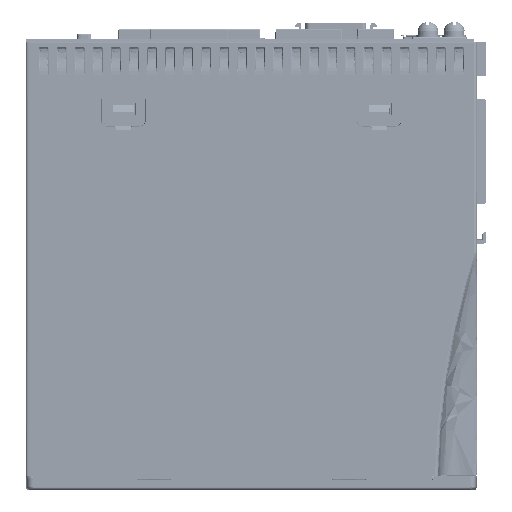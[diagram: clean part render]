
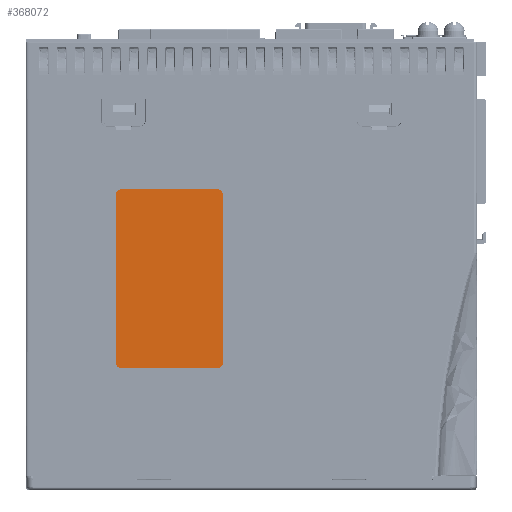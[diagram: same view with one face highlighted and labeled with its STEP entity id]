
A CAD part, front view. The second image highlights one B-rep face of the part: STEP entity #368072.
In plain terms, the highlighted planar face has unit normal (0, -1, 0).
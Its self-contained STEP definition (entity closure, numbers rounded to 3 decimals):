
#356050=CARTESIAN_POINT('',(-11.4,-21.2,-32.6));
#356051=DIRECTION('',(0.,-1.,0.));
#356052=DIRECTION('',(0.,0.,-1.));
#356053=AXIS2_PLACEMENT_3D('',#356050,#356051,#356052);
#356058=DIRECTION('',(1.,0.,0.));
#356059=VECTOR('',#356058,31.6);
#356060=CARTESIAN_POINT('',(-43.,-21.2,-34.6));
#356061=LINE('',#356060,#356059);
#356065=CARTESIAN_POINT('',(-43.,-21.2,-32.6));
#356066=DIRECTION('',(0.,-1.,0.));
#356067=DIRECTION('',(-1.,0.,0.));
#356068=AXIS2_PLACEMENT_3D('',#356065,#356066,#356067);
#356073=DIRECTION('',(0.,0.,-1.));
#356074=VECTOR('',#356073,55.6);
#356075=CARTESIAN_POINT('',(-45.,-21.2,23.));
#356076=LINE('',#356075,#356074);
#356080=CARTESIAN_POINT('',(-43.,-21.2,23.));
#356081=DIRECTION('',(0.,-1.,0.));
#356082=DIRECTION('',(0.,0.,1.));
#356083=AXIS2_PLACEMENT_3D('',#356080,#356081,#356082);
#356088=DIRECTION('',(-1.,0.,0.));
#356089=VECTOR('',#356088,31.6);
#356090=CARTESIAN_POINT('',(-11.4,-21.2,25.));
#356091=LINE('',#356090,#356089);
#356095=CARTESIAN_POINT('',(-11.4,-21.2,23.));
#356096=DIRECTION('',(0.,-1.,0.));
#356097=DIRECTION('',(1.,0.,0.));
#356098=AXIS2_PLACEMENT_3D('',#356095,#356096,#356097);
#356103=DIRECTION('',(0.,0.,-1.));
#356104=VECTOR('',#356103,55.6);
#356105=CARTESIAN_POINT('',(-9.4,-21.2,23.));
#356106=LINE('',#356105,#356104);
#356422=CARTESIAN_POINT('',(-45.,-21.2,-32.6));
#356423=CARTESIAN_POINT('',(-43.,-21.2,-34.6));
#356424=VERTEX_POINT('',#356422);
#356425=VERTEX_POINT('',#356423);
#356430=CARTESIAN_POINT('',(-43.,-21.2,25.));
#356431=CARTESIAN_POINT('',(-45.,-21.2,23.));
#356432=VERTEX_POINT('',#356430);
#356433=VERTEX_POINT('',#356431);
#356799=CARTESIAN_POINT('',(-11.4,-21.2,-34.6));
#356801=VERTEX_POINT('',#356799);
#356803=CARTESIAN_POINT('',(-9.4,-21.2,-32.6));
#356804=VERTEX_POINT('',#356803);
#356807=CARTESIAN_POINT('',(-9.4,-21.2,23.));
#356808=CARTESIAN_POINT('',(-11.4,-21.2,25.));
#356809=VERTEX_POINT('',#356807);
#356810=VERTEX_POINT('',#356808);
#368053=CARTESIAN_POINT('',(0.,-21.2,0.));
#368054=DIRECTION('',(0.,-1.,0.));
#368055=DIRECTION('',(-1.,0.,0.));
#368056=AXIS2_PLACEMENT_3D('',#368053,#368054,#368055);
#368057=PLANE('',#368056);
#368058=ORIENTED_EDGE('',*,*,#368018,.F.);
#368059=ORIENTED_EDGE('',*,*,#368034,.F.);
#368060=ORIENTED_EDGE('',*,*,#368044,.F.);
#368062=ORIENTED_EDGE('',*,*,#368061,.F.);
#368064=ORIENTED_EDGE('',*,*,#368063,.F.);
#368066=ORIENTED_EDGE('',*,*,#368065,.F.);
#368068=ORIENTED_EDGE('',*,*,#368067,.F.);
#368069=ORIENTED_EDGE('',*,*,#368003,.T.);
#368070=EDGE_LOOP('',(#368058,#368059,#368060,#368062,#368064,#368066,#368068,
#368069));
#368071=FACE_OUTER_BOUND('',#368070,.F.);
#368072=ADVANCED_FACE('',(#368071),#368057,.T.);
#356054=CIRCLE('',#356053,2.);
#356069=CIRCLE('',#356068,2.);
#356084=CIRCLE('',#356083,2.);
#356099=CIRCLE('',#356098,2.);
#368003=EDGE_CURVE('',#356809,#356804,#356106,.T.);
#368018=EDGE_CURVE('',#356801,#356804,#356054,.T.);
#368034=EDGE_CURVE('',#356425,#356801,#356061,.T.);
#368044=EDGE_CURVE('',#356424,#356425,#356069,.T.);
#368061=EDGE_CURVE('',#356433,#356424,#356076,.T.);
#368063=EDGE_CURVE('',#356432,#356433,#356084,.T.);
#368065=EDGE_CURVE('',#356810,#356432,#356091,.T.);
#368067=EDGE_CURVE('',#356809,#356810,#356099,.T.);
